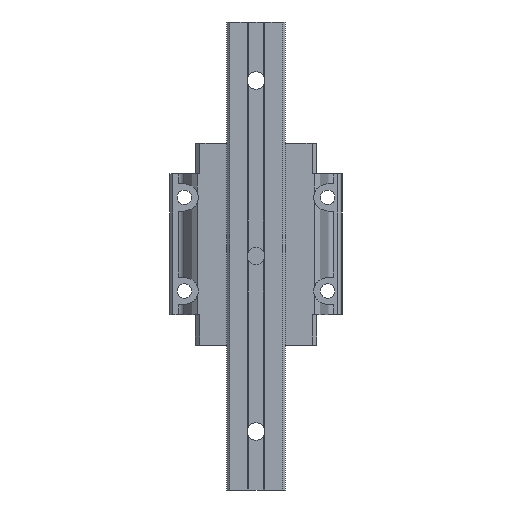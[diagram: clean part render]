
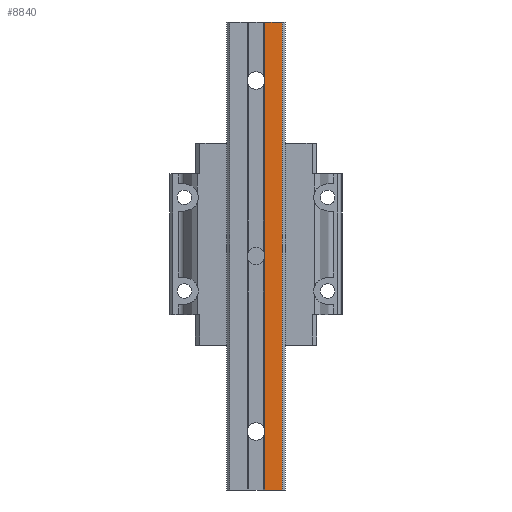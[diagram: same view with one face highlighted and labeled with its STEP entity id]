
A CAD part, front view. The second image highlights one B-rep face of the part: STEP entity #8840.
In plain terms, the highlighted planar face has unit normal (0, -1, 0).
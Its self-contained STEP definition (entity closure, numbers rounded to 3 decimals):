
#7610=DIRECTION('',(1.,0.,0.));
#7611=VECTOR('',#7610,6.);
#7612=CARTESIAN_POINT('',(3.,-15.5,-60.));
#7613=LINE('',#7612,#7611);
#7830=DIRECTION('',(0.,0.,1.));
#7831=VECTOR('',#7830,160.);
#7832=CARTESIAN_POINT('',(9.,-15.5,-60.));
#7833=LINE('',#7832,#7831);
#7834=DIRECTION('',(0.,0.,1.));
#7835=VECTOR('',#7834,20.);
#7836=CARTESIAN_POINT('',(3.,-15.5,80.));
#7837=LINE('',#7836,#7835);
#7838=DIRECTION('',(1.,0.,0.));
#7839=VECTOR('',#7838,6.);
#7840=CARTESIAN_POINT('',(3.,-15.5,100.));
#7841=LINE('',#7840,#7839);
#7842=DIRECTION('',(0.,0.,1.));
#7843=VECTOR('',#7842,20.);
#7844=CARTESIAN_POINT('',(3.,-15.5,-60.));
#7845=LINE('',#7844,#7843);
#7846=DIRECTION('',(0.,0.,1.));
#7847=VECTOR('',#7846,60.);
#7848=CARTESIAN_POINT('',(3.,-15.5,
-40.));
#7849=LINE('',#7848,#7847);
#7850=DIRECTION('',(0.,0.,1.));
#7851=VECTOR('',#7850,60.);
#7852=CARTESIAN_POINT('',(3.,-15.5,20.));
#7853=LINE('',#7852,#7851);
#8322=CARTESIAN_POINT('',(3.,-15.5,-60.));
#8323=VERTEX_POINT('',#8322);
#8324=CARTESIAN_POINT('',(9.,-15.5,-60.));
#8325=VERTEX_POINT('',#8324);
#8368=CARTESIAN_POINT('',(9.,-15.5,100.));
#8369=VERTEX_POINT('',#8368);
#8370=CARTESIAN_POINT('',(3.,-15.5,100.));
#8371=VERTEX_POINT('',#8370);
#8408=CARTESIAN_POINT('',(3.,-15.5,80.));
#8409=VERTEX_POINT('',#8408);
#8410=CARTESIAN_POINT('',(3.,-15.5,
-40.));
#8411=VERTEX_POINT('',#8410);
#8412=CARTESIAN_POINT('',(3.,-15.5,20.));
#8413=VERTEX_POINT('',#8412);
#8822=CARTESIAN_POINT('',(3.,-15.5,-30.));
#8823=DIRECTION('',(0.,-1.,0.));
#8824=DIRECTION('',(1.,0.,0.));
#8825=AXIS2_PLACEMENT_3D('',#8822,#8823,#8824);
#8826=PLANE('',#8825);
#8828=ORIENTED_EDGE('',*,*,#8827,.T.);
#8829=ORIENTED_EDGE('',*,*,#8635,.T.);
#8830=ORIENTED_EDGE('',*,*,#8815,.F.);
#8831=ORIENTED_EDGE('',*,*,#8564,.F.);
#8833=ORIENTED_EDGE('',*,*,#8832,.T.);
#8835=ORIENTED_EDGE('',*,*,#8834,.T.);
#8837=ORIENTED_EDGE('',*,*,#8836,.T.);
#8838=EDGE_LOOP('',(#8828,#8829,#8830,#8831,#8833,#8835,#8837));
#8839=FACE_OUTER_BOUND('',#8838,.F.);
#8840=ADVANCED_FACE('',(#8839),#8826,.T.);
#8564=EDGE_CURVE('',#8323,#8325,#7613,.T.);
#8635=EDGE_CURVE('',#8371,#8369,#7841,.T.);
#8815=EDGE_CURVE('',#8325,#8369,#7833,.T.);
#8827=EDGE_CURVE('',#8409,#8371,#7837,.T.);
#8832=EDGE_CURVE('',#8323,#8411,#7845,.T.);
#8834=EDGE_CURVE('',#8411,#8413,#7849,.T.);
#8836=EDGE_CURVE('',#8413,#8409,#7853,.T.);
